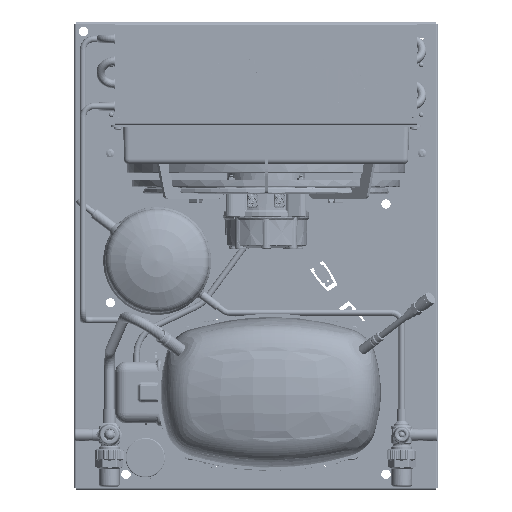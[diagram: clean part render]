
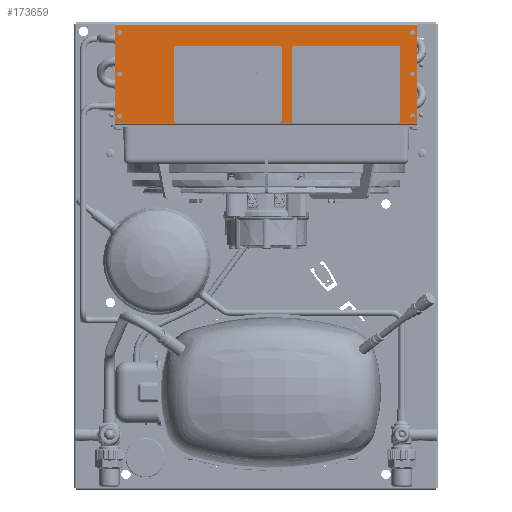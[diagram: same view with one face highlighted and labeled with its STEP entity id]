
A CAD part, top view. The second image highlights one B-rep face of the part: STEP entity #173659.
In plain terms, the highlighted planar face has unit normal (0, 0, 1).
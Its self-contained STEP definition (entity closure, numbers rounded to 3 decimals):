
#14636=LINE('',#386970,#27332);
#14637=LINE('',#386973,#27333);
#14638=LINE('',#386975,#27334);
#14639=LINE('',#386977,#27335);
#27332=VECTOR('',#237456,1000.);
#27333=VECTOR('',#237457,1000.);
#27334=VECTOR('',#237458,1000.);
#27335=VECTOR('',#237459,1000.);
#38133=PLANE('',#215176);
#56107=ORIENTED_EDGE('',*,*,#100755,.T.);
#56108=ORIENTED_EDGE('',*,*,#100756,.F.);
#56109=ORIENTED_EDGE('',*,*,#100757,.F.);
#56110=ORIENTED_EDGE('',*,*,#100758,.T.);
#56111=ORIENTED_EDGE('',*,*,#100754,.F.);
#56112=ORIENTED_EDGE('',*,*,#100752,.F.);
#56113=ORIENTED_EDGE('',*,*,#100750,.F.);
#56114=ORIENTED_EDGE('',*,*,#100748,.F.);
#56115=ORIENTED_EDGE('',*,*,#100746,.F.);
#56116=ORIENTED_EDGE('',*,*,#100744,.F.);
#100744=EDGE_CURVE('',#124318,#124318,#138919,.T.);
#100746=EDGE_CURVE('',#124320,#124320,#138921,.T.);
#100748=EDGE_CURVE('',#124322,#124322,#138923,.T.);
#100750=EDGE_CURVE('',#124324,#124324,#138925,.T.);
#100752=EDGE_CURVE('',#124326,#124326,#138927,.T.);
#100754=EDGE_CURVE('',#124328,#124328,#138929,.T.);
#100755=EDGE_CURVE('',#124329,#124330,#14636,.T.);
#100756=EDGE_CURVE('',#124331,#124330,#14637,.T.);
#100757=EDGE_CURVE('',#124332,#124331,#14638,.T.);
#100758=EDGE_CURVE('',#124332,#124329,#14639,.T.);
#124318=VERTEX_POINT('',#386943);
#124320=VERTEX_POINT('',#386948);
#124322=VERTEX_POINT('',#386953);
#124324=VERTEX_POINT('',#386958);
#124326=VERTEX_POINT('',#386963);
#124328=VERTEX_POINT('',#386968);
#124329=VERTEX_POINT('',#386971);
#124330=VERTEX_POINT('',#386972);
#124331=VERTEX_POINT('',#386974);
#124332=VERTEX_POINT('',#386976);
#138919=CIRCLE('',#215160,2.25);
#138921=CIRCLE('',#215163,2.25);
#138923=CIRCLE('',#215166,2.25);
#138925=CIRCLE('',#215169,2.25);
#138927=CIRCLE('',#215172,2.25);
#138929=CIRCLE('',#215175,2.25);
#146701=EDGE_LOOP('',(#56107,#56108,#56109,#56110));
#146702=EDGE_LOOP('',(#56111));
#146703=EDGE_LOOP('',(#56112));
#146704=EDGE_LOOP('',(#56113));
#146705=EDGE_LOOP('',(#56114));
#146706=EDGE_LOOP('',(#56115));
#146707=EDGE_LOOP('',(#56116));
#159864=FACE_BOUND('',#146701,.T.);
#159865=FACE_BOUND('',#146702,.T.);
#159866=FACE_BOUND('',#146703,.T.);
#159867=FACE_BOUND('',#146704,.T.);
#159868=FACE_BOUND('',#146705,.T.);
#159869=FACE_BOUND('',#146706,.T.);
#159870=FACE_BOUND('',#146707,.T.);
#173659=ADVANCED_FACE('',(#159864,#159865,#159866,#159867,#159868,#159869,
#159870),#38133,.F.);
#215160=AXIS2_PLACEMENT_3D('',#386942,#237422,#237423);
#215163=AXIS2_PLACEMENT_3D('',#386947,#237428,#237429);
#215166=AXIS2_PLACEMENT_3D('',#386952,#237434,#237435);
#215169=AXIS2_PLACEMENT_3D('',#386957,#237440,#237441);
#215172=AXIS2_PLACEMENT_3D('',#386962,#237446,#237447);
#215175=AXIS2_PLACEMENT_3D('',#386967,#237452,#237453);
#215176=AXIS2_PLACEMENT_3D('',#386969,#237454,#237455);
#237422=DIRECTION('',(0.,0.,1.));
#237423=DIRECTION('',(1.,0.,0.));
#237428=DIRECTION('',(0.,0.,1.));
#237429=DIRECTION('',(1.,0.,0.));
#237434=DIRECTION('',(0.,0.,1.));
#237435=DIRECTION('',(1.,0.,0.));
#237440=DIRECTION('',(0.,0.,1.));
#237441=DIRECTION('',(1.,0.,0.));
#237446=DIRECTION('',(0.,0.,1.));
#237447=DIRECTION('',(1.,0.,0.));
#237452=DIRECTION('',(0.,0.,1.));
#237453=DIRECTION('',(1.,0.,0.));
#237454=DIRECTION('',(0.,0.,-1.));
#237455=DIRECTION('',(-1.,0.,0.));
#237456=DIRECTION('',(0.,1.,0.));
#237457=DIRECTION('',(1.,0.,0.));
#237458=DIRECTION('',(0.,1.,0.));
#237459=DIRECTION('',(1.,0.,0.));
#386942=CARTESIAN_POINT('',(140.75,0.15,0.));
#386943=CARTESIAN_POINT('',(143.,0.15,0.));
#386947=CARTESIAN_POINT('',(-140.75,0.15,0.));
#386948=CARTESIAN_POINT('',(-138.5,0.15,0.));
#386952=CARTESIAN_POINT('',(-140.75,40.15,0.));
#386953=CARTESIAN_POINT('',(-138.5,40.15,0.));
#386957=CARTESIAN_POINT('',(140.75,-40.15,0.));
#386958=CARTESIAN_POINT('',(143.,-40.15,0.));
#386962=CARTESIAN_POINT('',(140.75,40.15,0.));
#386963=CARTESIAN_POINT('',(143.,40.15,0.));
#386967=CARTESIAN_POINT('',(-140.75,-40.15,0.));
#386968=CARTESIAN_POINT('',(-138.5,-40.15,0.));
#386969=CARTESIAN_POINT('',(-145.,-48.65,0.));
#386970=CARTESIAN_POINT('',(145.,-48.65,0.));
#386971=CARTESIAN_POINT('',(145.,-46.85,0.));
#386972=CARTESIAN_POINT('',(145.,46.85,0.));
#386973=CARTESIAN_POINT('',(-145.,46.85,0.));
#386974=CARTESIAN_POINT('',(-145.,46.85,0.));
#386975=CARTESIAN_POINT('',(-145.,-48.65,0.));
#386976=CARTESIAN_POINT('',(-145.,-46.85,0.));
#386977=CARTESIAN_POINT('',(-145.,-46.85,0.));
